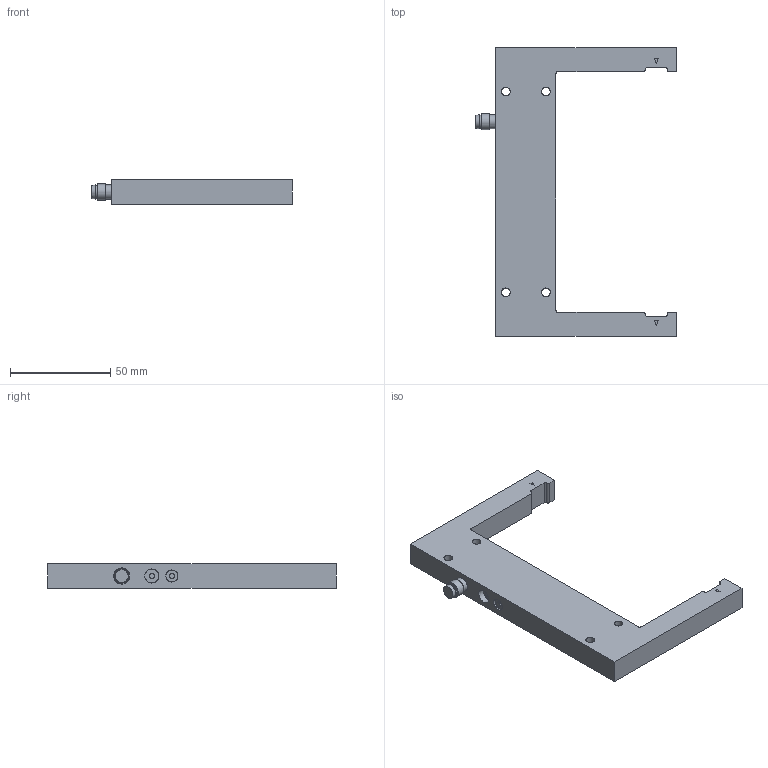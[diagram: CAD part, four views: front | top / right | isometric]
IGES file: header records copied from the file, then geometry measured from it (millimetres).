
Global section: file name: H:\lem\3DCAD_GSxxB_x_1_120_M8_3.igs; native system: NX V11.0; preprocessor: SIEMENS PLM Software NX 11.0; date: 20210426.101950; units: millimetre
Bounding box: 100 x 144 x 12 mm (x, y, z)
Surface area: 19460.1 mm2 (no closed solid volume)
Topology: 0 solids, 0 shells, 55 faces, 474 edges, 474 vertices
Faces by surface type: bspline 55
